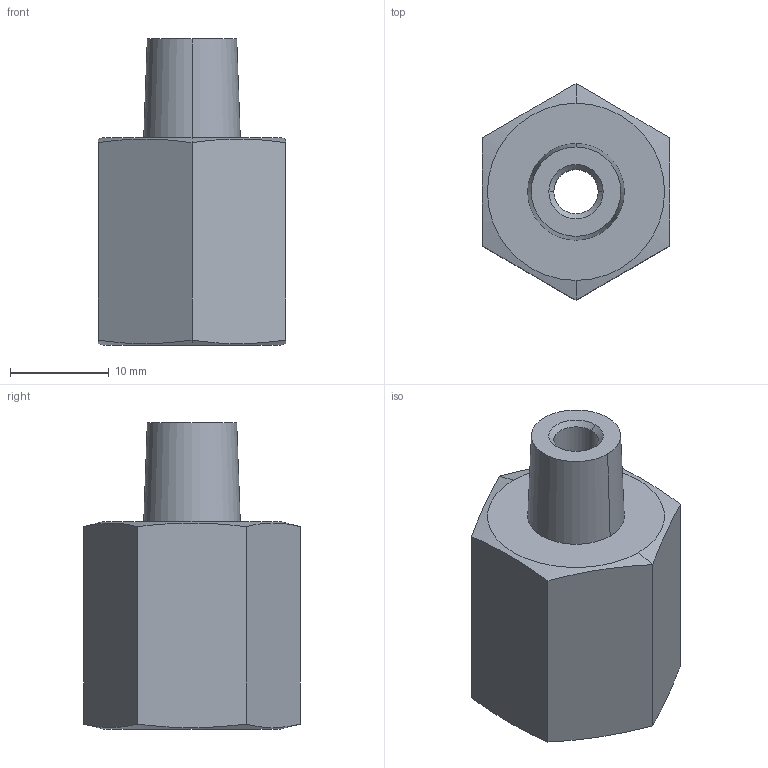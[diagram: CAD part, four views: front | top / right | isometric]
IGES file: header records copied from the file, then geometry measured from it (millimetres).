
Start section:  PTC IGES file: FZ1642.igs
Global section: file name: FZ1642.igs; native system: Creo Parametric by PTC Inc.; preprocessor: 2015290; author: mike.ward; organization: Unknown; date: 20170830.071141; units: millimetre
Bounding box: 19 x 21.94 x 31 mm (x, y, z)
Volume: 5751.6 mm3; surface area: 2859.4 mm2
Topology: 1 solids, 1 shells, 25 faces, 54 edges, 32 vertices
Faces by surface type: revolution 16, bspline 9
